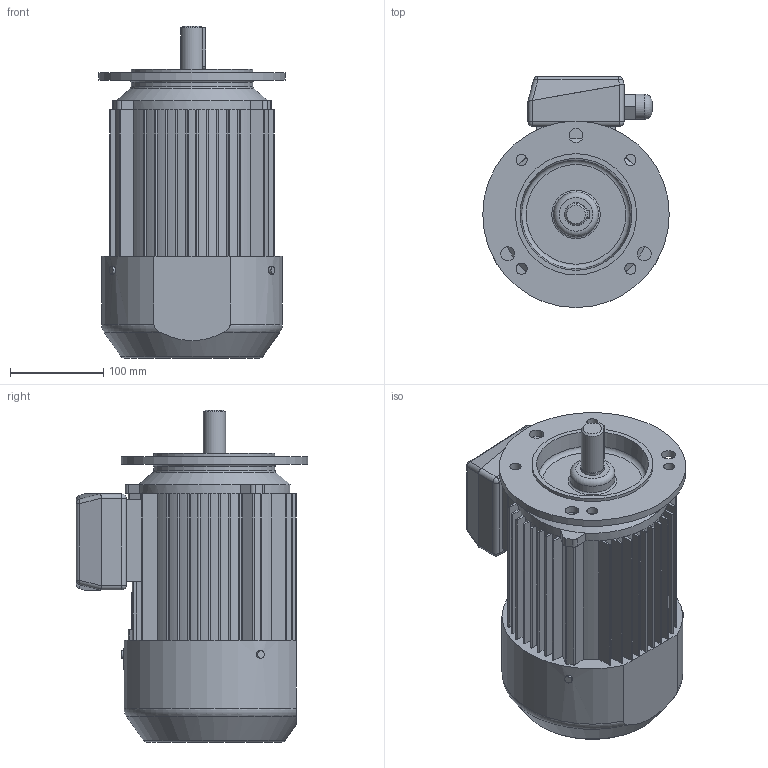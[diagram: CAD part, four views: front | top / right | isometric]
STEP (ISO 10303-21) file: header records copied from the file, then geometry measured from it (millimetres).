
FILE_DESCRIPTION(/* description */ ('Unknown'),/* implementation_level */ '2;1');
FILE_NAME(/* name */ 'Ex 3SIEK90L4,6 – 2G,2D,2G&2D – IMB5',/* time_stamp */ '2023-05-11T08:00:46+02:00',/* author */ ('Unknown'),/* organization */ ('Unknown'),/* preprocessor_version */ 'ST-DEVELOPER v16.7',/* originating_system */ 'DEX',/* authorisation */ $);
FILE_SCHEMA (('AUTOMOTIVE_DESIGN {1 0 10303 214 3 1 1}'));
Length unit declared in the file: millimetre
Products named in the file (1): 3SIEK90L4,6
Bounding box: 200 x 248 x 356 mm (x, y, z)
Volume: 7706766.4 mm3; surface area: 410065.7 mm2
Topology: 1 solids, 1 shells, 503 faces, 1343 edges, 856 vertices
Faces by surface type: plane 275, cylinder 130, bspline 78, torus 8, sphere 8, cone 4
Full cylindrical faces by diameter (mm): 8 x3, 12 x4, 15 x3, 24 x1, 25 x1, 27 x1, 48 x1, 130 x2, 200 x1
Entity records: 19075 total; most frequent: CARTESIAN_POINT 6969, ORIENTED_EDGE 2590, DIRECTION 2334, EDGE_CURVE 1295, VERTEX_POINT 844, LINE 782, VECTOR 782, AXIS2_PLACEMENT_3D 776
